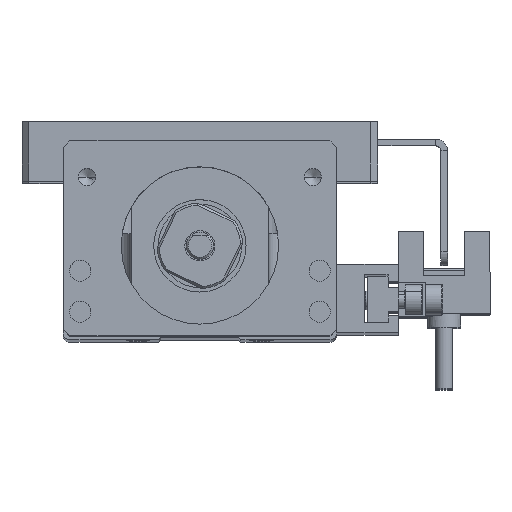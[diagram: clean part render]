
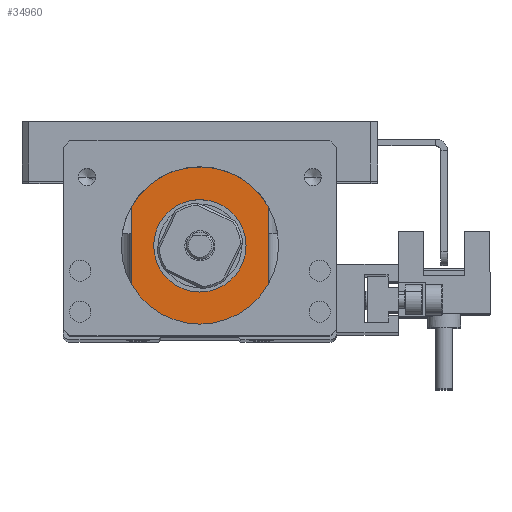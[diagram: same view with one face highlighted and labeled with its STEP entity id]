
A CAD part, top view. The second image highlights one B-rep face of the part: STEP entity #34960.
In plain terms, the highlighted planar face has unit normal (0, 0, 1).
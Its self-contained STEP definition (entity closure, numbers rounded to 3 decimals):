
#110 = LINE ( 'NONE', #12206, #16104 ) ;
#1211 = AXIS2_PLACEMENT_3D ( 'NONE', #31888, #23613, #35997 ) ;
#1430 = DIRECTION ( 'NONE',  ( -1., 0., 0. ) ) ;
#2640 = CARTESIAN_POINT ( 'NONE',  ( -13., 0.5, 115. ) ) ;
#3000 = CARTESIAN_POINT ( 'NONE',  ( -10., 15.5, 115. ) ) ;
#3445 = DIRECTION ( 'NONE',  ( 1., 0., 0. ) ) ;
#3636 = VECTOR ( 'NONE', #26232, 1000. ) ;
#3810 = CIRCLE ( 'NONE', #44128, 6.75 ) ;
#3957 = EDGE_CURVE ( 'NONE', #8324, #5150, #20413, .T. ) ;
#4493 = CARTESIAN_POINT ( 'NONE',  ( -10., 29., 115. ) ) ;
#4969 = DIRECTION ( 'NONE',  ( 0., 1., 0. ) ) ;
#5150 = VERTEX_POINT ( 'NONE', #51011 ) ;
#5698 = VECTOR ( 'NONE', #8929, 1000. ) ;
#5767 = DIRECTION ( 'NONE',  ( 0., 0., -1. ) ) ;
#8324 = VERTEX_POINT ( 'NONE', #50635 ) ;
#8929 = DIRECTION ( 'NONE',  ( 0., -1., 0. ) ) ;
#9174 = LINE ( 'NONE', #24873, #46923 ) ;
#9230 = EDGE_CURVE ( 'NONE', #21542, #48951, #110, .T. ) ;
#11435 = CARTESIAN_POINT ( 'NONE',  ( 0., 13.7, 115. ) ) ;
#12206 = CARTESIAN_POINT ( 'NONE',  ( -10., 0.5, 115. ) ) ;
#14177 = ORIENTED_EDGE ( 'NONE', *, *, #38820, .T. ) ;
#14367 = ORIENTED_EDGE ( 'NONE', *, *, #15763, .T. ) ;
#15763 = EDGE_CURVE ( 'NONE', #5150, #16349, #43895, .T. ) ;
#16104 = VECTOR ( 'NONE', #35200, 1000. ) ;
#16299 = EDGE_CURVE ( 'NONE', #19797, #24222, #23454, .T. ) ;
#16349 = VERTEX_POINT ( 'NONE', #38848 ) ;
#18911 = CARTESIAN_POINT ( 'NONE',  ( -10., 0.5, 115. ) ) ;
#19797 = VERTEX_POINT ( 'NONE', #29557 ) ;
#19950 = ORIENTED_EDGE ( 'NONE', *, *, #3957, .T. ) ;
#20413 = LINE ( 'NONE', #26940, #20858 ) ;
#20526 = LINE ( 'NONE', #44220, #5698 ) ;
#20652 = CARTESIAN_POINT ( 'NONE',  ( -6.75, 13.7, 115. ) ) ;
#20858 = VECTOR ( 'NONE', #48216, 1000. ) ;
#21542 = VERTEX_POINT ( 'NONE', #4493 ) ;
#23359 = ORIENTED_EDGE ( 'NONE', *, *, #16299, .F. ) ;
#23454 = CIRCLE ( 'NONE', #1211, 6.75 ) ;
#23613 = DIRECTION ( 'NONE',  ( 0., 0., 1. ) ) ;
#24222 = VERTEX_POINT ( 'NONE', #20652 ) ;
#24402 = ORIENTED_EDGE ( 'NONE', *, *, #9230, .T. ) ;
#24873 = CARTESIAN_POINT ( 'NONE',  ( -13., 0.5, 115. ) ) ;
#25345 = PLANE ( 'NONE',  #26838 ) ;
#25721 = CARTESIAN_POINT ( 'NONE',  ( -13., 29., 115. ) ) ;
#26232 = DIRECTION ( 'NONE',  ( -1., 0., 0. ) ) ;
#26613 = EDGE_CURVE ( 'NONE', #8324, #49268, #9174, .T. ) ;
#26838 = AXIS2_PLACEMENT_3D ( 'NONE', #2640, #5767, #49040 ) ;
#26912 = DIRECTION ( 'NONE',  ( 0., 0., 1. ) ) ;
#26940 = CARTESIAN_POINT ( 'NONE',  ( 10., 29., 115. ) ) ;
#28562 = EDGE_LOOP ( 'NONE', ( #36981, #24402, #14177, #44355, #19950, #14367 ) ) ;
#29557 = CARTESIAN_POINT ( 'NONE',  ( 6.75, 13.7, 115. ) ) ;
#30103 = ORIENTED_EDGE ( 'NONE', *, *, #49367, .F. ) ;
#30628 = LINE ( 'NONE', #25721, #3636 ) ;
#31888 = CARTESIAN_POINT ( 'NONE',  ( 0., 13.7, 115. ) ) ;
#33109 = FACE_BOUND ( 'NONE', #42241, .T. ) ;
#34960 = ADVANCED_FACE ( 'NONE', ( #33109, #37974 ), #25345, .F. ) ;
#35200 = DIRECTION ( 'NONE',  ( 0., -1., 0. ) ) ;
#35997 = DIRECTION ( 'NONE',  ( 1., 0., 0. ) ) ;
#36981 = ORIENTED_EDGE ( 'NONE', *, *, #43400, .T. ) ;
#37974 = FACE_OUTER_BOUND ( 'NONE', #28562, .T. ) ;
#38820 = EDGE_CURVE ( 'NONE', #48951, #49268, #20526, .T. ) ;
#38848 = CARTESIAN_POINT ( 'NONE',  ( 10., 29., 115. ) ) ;
#40731 = VECTOR ( 'NONE', #4969, 1000. ) ;
#42241 = EDGE_LOOP ( 'NONE', ( #23359, #30103 ) ) ;
#43400 = EDGE_CURVE ( 'NONE', #16349, #21542, #30628, .T. ) ;
#43895 = LINE ( 'NONE', #48513, #40731 ) ;
#44128 = AXIS2_PLACEMENT_3D ( 'NONE', #11435, #26912, #3445 ) ;
#44220 = CARTESIAN_POINT ( 'NONE',  ( -10., 0.5, 115. ) ) ;
#44355 = ORIENTED_EDGE ( 'NONE', *, *, #26613, .F. ) ;
#46923 = VECTOR ( 'NONE', #1430, 1000. ) ;
#48216 = DIRECTION ( 'NONE',  ( 0., 1., 0. ) ) ;
#48513 = CARTESIAN_POINT ( 'NONE',  ( 10., 29., 115. ) ) ;
#48951 = VERTEX_POINT ( 'NONE', #3000 ) ;
#49040 = DIRECTION ( 'NONE',  ( -1., 0., 0. ) ) ;
#49268 = VERTEX_POINT ( 'NONE', #18911 ) ;
#49367 = EDGE_CURVE ( 'NONE', #24222, #19797, #3810, .T. ) ;
#50635 = CARTESIAN_POINT ( 'NONE',  ( 10., 0.5, 115. ) ) ;
#51011 = CARTESIAN_POINT ( 'NONE',  ( 10., 15.5, 115. ) ) ;
